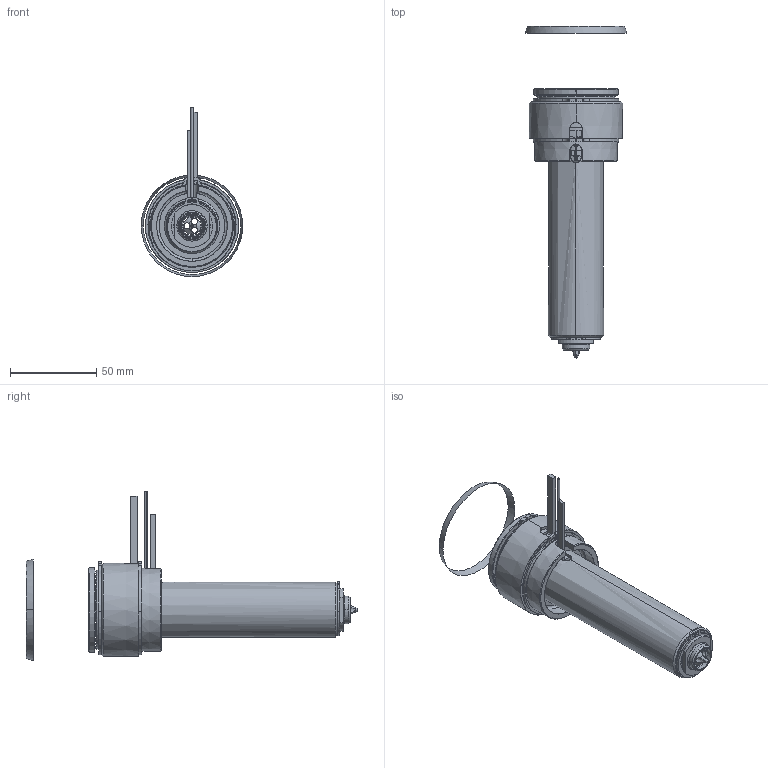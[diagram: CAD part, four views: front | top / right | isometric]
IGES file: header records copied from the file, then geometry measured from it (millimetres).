
Start section: SolidWorks IGES file using analytic representation for surfaces
Global section: file name: C:\Documents and Settings\ws-20\Desktop\TEM\UGEP5503-S-A-1 [Øf-1.36 ØC-12].IGS; native system: SolidWorks 2012; preprocessor: SolidWorks 2012; author: ws-20; date: 120427.080300; units: millimetre
Bounding box: 58.79 x 192.24 x 98.01 mm (x, y, z)
Surface area: 69170.3 mm2 (no closed solid volume)
Topology: 0 solids, 0 shells, 176 faces, 3586 edges, 3586 vertices
Faces by surface type: revolution 115, bspline 61
